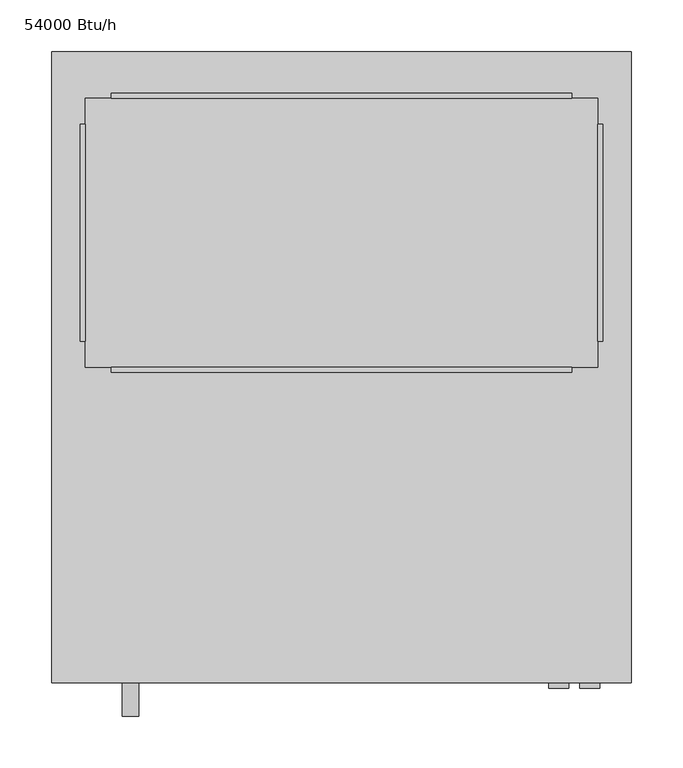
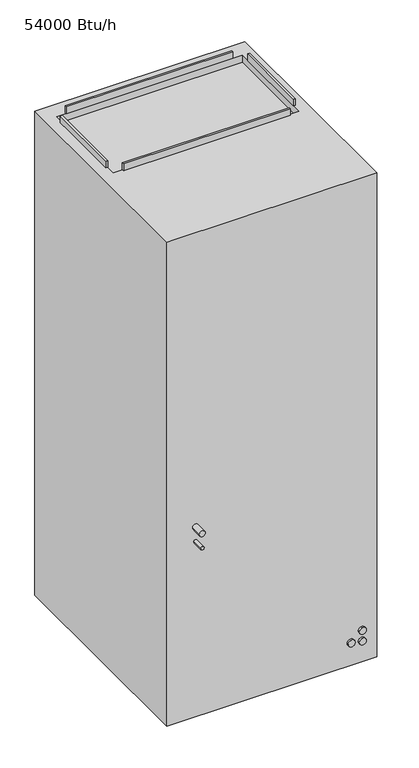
"""IFC4 building model written with IfcOpenShell, lengths in millimetres: proxy geometry, Lennox-VRF-Concealed_Vertical_Air_Handler-VVCA-2P_Series : 54000 Btu/h."""

from ifc_helpers import new_model, si_unit, point, frame, frame_2d, origin, place, context, project, spatial, polyline, circle_curve, trimmed, segment, composite_curve, outline, extrude, faceted_brep, source, transform, mapped, element, save


def proxy_54000_btu_h_27a44d0b(model_context):
    return source(origin(), model_context, "Body", "SolidModel", [
        extrude(outline(composite_curve([segment(trimmed(circle_curve(frame_2d((60.0, 240.0)), 9.525), [point((60.0, 230.475))], [point((60.0, 249.525))], False, "CARTESIAN"), True, "CONTINUOUS"), segment(trimmed(circle_curve(frame_2d((60.0, 240.0)), 9.525), [point((60.0, 249.525))], [point((60.0, 230.475))], False, "CARTESIAN"), True, "CONTINUOUS")], self_intersect=False)), frame((0.0, -310.0, 0.0), z_axis=(0.0, 1.0, 0.0), x_axis=(0.0, 0.0, 1.0)), (0.0, 0.0, 1.0), 5.0),
        extrude(outline(composite_curve([segment(trimmed(circle_curve(frame_2d((65.0, 210.0)), 9.525), [point((65.0, 200.475))], [point((65.0, 219.525))], False, "CARTESIAN"), True, "CONTINUOUS"), segment(trimmed(circle_curve(frame_2d((65.0, 210.0)), 9.525), [point((65.0, 219.525))], [point((65.0, 200.475))], False, "CARTESIAN"), True, "CONTINUOUS")], self_intersect=False)), frame((0.0, -310.0, 0.0), z_axis=(0.0, 1.0, 0.0), x_axis=(0.0, 0.0, 1.0)), (0.0, 0.0, 1.0), 5.0),
        extrude(outline(composite_curve([segment(trimmed(circle_curve(frame_2d((90.0, 240.0)), 9.525), [point((90.0, 230.475))], [point((90.0, 249.525))], False, "CARTESIAN"), True, "CONTINUOUS"), segment(trimmed(circle_curve(frame_2d((90.0, 240.0)), 9.525), [point((90.0, 249.525))], [point((90.0, 230.475))], False, "CARTESIAN"), True, "CONTINUOUS")], self_intersect=False)), frame((0.0, -310.0, 0.0), z_axis=(0.0, 1.0, 0.0), x_axis=(0.0, 0.0, 1.0)), (0.0, 0.0, 1.0), 5.0),
        extrude(outline(composite_curve([segment(trimmed(circle_curve(frame_2d((495.0, -204.0)), 4.7625), [point((495.0, -208.7625))], [point((495.0, -199.2375))], False, "CARTESIAN"), True, "CONTINUOUS"), segment(trimmed(circle_curve(frame_2d((495.0, -204.0)), 4.7625), [point((495.0, -199.2375))], [point((495.0, -208.7625))], False, "CARTESIAN"), True, "CONTINUOUS")], self_intersect=False)), frame((0.0, -337.0, 0.0), z_axis=(0.0, 1.0, 0.0), x_axis=(0.0, 0.0, 1.0)), (0.0, 0.0, 1.0), 32.0),
        extrude(outline(composite_curve([segment(trimmed(circle_curve(frame_2d((536.0, -204.0)), 7.9375), [point((536.0, -211.9375))], [point((536.0, -196.0625))], False, "CARTESIAN"), True, "CONTINUOUS"), segment(trimmed(circle_curve(frame_2d((536.0, -204.0)), 7.9375), [point((536.0, -196.0625))], [point((536.0, -211.9375))], False, "CARTESIAN"), True, "CONTINUOUS")], self_intersect=False)), frame((0.0, -337.0, 0.0), z_axis=(0.0, 1.0, 0.0), x_axis=(0.0, 0.0, 1.0)), (0.0, 0.0, 1.0), 32.0),
        extrude(outline(polyline([(-252.5, 235.0), (-247.5, 235.0), (-247.5, 25.0), (-252.5, 25.0), (-252.5, 235.0)])), frame((0.0, 0.0, 1365.0), z_axis=(0.0, 0.0, 1.0), x_axis=(1.0, 0.0, 0.0)), (0.0, 0.0, 1.0), 19.0),
        extrude(outline(polyline([(247.5, 235.0), (252.5, 235.0), (252.5, 25.0), (247.5, 25.0), (247.5, 235.0)])), frame((0.0, 0.0, 1365.0), z_axis=(0.0, 0.0, 1.0), x_axis=(1.0, 0.0, 0.0)), (0.0, 0.0, 1.0), 19.0),
        extrude(outline(polyline([(222.5, 265.0), (222.5, 260.0), (-222.5, 260.0), (-222.5, 265.0), (222.5, 265.0)])), frame((0.0, 0.0, 1365.0), z_axis=(0.0, 0.0, 1.0), x_axis=(1.0, 0.0, 0.0)), (0.0, 0.0, 1.0), 19.0),
        extrude(outline(polyline([(222.5, 0.0), (222.5, -5.0), (-222.5, -5.0), (-222.5, 0.0), (222.5, 0.0)])), frame((0.0, 0.0, 1365.0), z_axis=(0.0, 0.0, 1.0), x_axis=(1.0, 0.0, 0.0)), (0.0, 0.0, 1.0), 19.0),
        faceted_brep([(280.0, 305.0, 1365.0), (-280.0, 305.0, 1365.0), (-280.0, -305.0, 1365.0), (280.0, -305.0, 1365.0), (-247.5, 260.0, 1365.0), (247.5, 260.0, 1365.0), (247.5, 0.0, 1365.0), (-247.5, 0.0, 1365.0), (280.0, 305.0, 0.0), (280.0, -305.0, 0.0), (-280.0, -305.0, 0.0), (-280.0, 305.0, 0.0), (247.5, 260.0, 1345.0), (-247.5, 260.0, 1345.0), (-247.5, 0.0, 1345.0), (247.5, 0.0, 1345.0)], [[[0, 1, 2, 3], [4, 5, 6, 7]], [[8, 9, 10, 11]], [[1, 0, 8, 11]], [[2, 1, 11, 10]], [[3, 2, 10, 9]], [[0, 3, 9, 8]], [[12, 13, 14, 15]], [[13, 12, 5, 4]], [[14, 13, 4, 7]], [[15, 14, 7, 6]], [[12, 15, 6, 5]]]),
    ])


if __name__ == "__main__":
    model = new_model("IFC4")
    model_context = context("Model", 3, world=origin())
    ifc_project = project(units=[si_unit("LENGTHUNIT", "METRE", prefix="MILLI")], contexts=[model_context])
    site = spatial("IfcSite", under=ifc_project)
    building = spatial("IfcBuilding", under=site)
    placement = place(None, origin())
    proxy_54000_btu_h_shape = proxy_54000_btu_h_27a44d0b(model_context)
    element("IfcBuildingElementProxy", 1, Name="Lennox-VRF-Concealed_Vertical_Air_Handler-VVCA-2P_Series : 54000 Btu/h", ObjectType="Lennox-VRF-Concealed_Vertical_Air_Handler-VVCA-2P_Series : 54000 Btu/h", at=placement, inside=building, context=model_context, shape_type="MappedRepresentation", body=[
        mapped(proxy_54000_btu_h_shape, transform((0.0, 0.0, 0.0), x_axis=(1.0, 0.0, 0.0), y_axis=(0.0, 1.0, 0.0), z_axis=(0.0, 0.0, 1.0))),
    ])
    save(model, "model.ifc")
